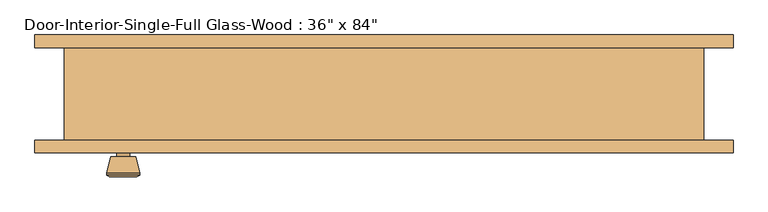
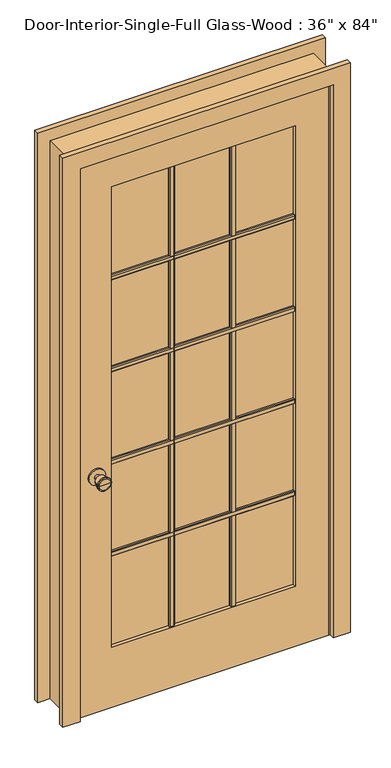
"""IFC4 building model written with IfcOpenShell, lengths in millimetres: door geometry."""

from ifc_helpers import new_model, si_unit, point, frame, frame_2d, origin, place, context, project, spatial, polyline, circle_curve, trimmed, segment, composite_curve, outline, extrude, faceted_brep, source, transform, mapped, element, save
from ifc_brep_helpers import plane_surface, cylinder_surface, revolved_surface, advanced_brep


def door_79dd3e86(model_context):
    return source(origin(), model_context, "Body", "SolidModel", [
        extrude(outline(polyline([(-52.705, 1667.51), (-52.705, 1648.46), (-59.055, 1648.46), (-62.23, 1651.635), (-62.23, 1664.335), (-59.055, 1667.51), (-52.705, 1667.51)])), frame((-336.55, 0.0, 0.0), z_axis=(1.0, 0.0, 0.0), x_axis=(0.0, 1.0, 0.0)), (0.0, 0.0, 1.0), 673.1),
        extrude(outline(polyline([(-52.705, 1310.9575), (-52.705, 1291.9075), (-59.055, 1291.9075), (-62.23, 1295.0825), (-62.23, 1307.7825), (-59.055, 1310.9575), (-52.705, 1310.9575)])), frame((-336.55, 0.0, 0.0), z_axis=(1.0, 0.0, 0.0), x_axis=(0.0, 1.0, 0.0)), (0.0, 0.0, 1.0), 673.1),
        extrude(outline(polyline([(-52.705, 954.405), (-52.705, 935.355), (-59.055, 935.355), (-62.23, 938.53), (-62.23, 951.23), (-59.055, 954.405), (-52.705, 954.405)])), frame((-336.55, 0.0, 0.0), z_axis=(1.0, 0.0, 0.0), x_axis=(0.0, 1.0, 0.0)), (0.0, 0.0, 1.0), 673.1),
        extrude(outline(polyline([(-52.705, 597.8525), (-52.705, 578.8025), (-59.055, 578.8025), (-62.23, 581.9775), (-62.23, 594.6775), (-59.055, 597.8525), (-52.705, 597.8525)])), frame((-336.55, 0.0, 0.0), z_axis=(1.0, 0.0, 0.0), x_axis=(0.0, 1.0, 0.0)), (0.0, 0.0, 1.0), 673.1),
        extrude(outline(polyline([(102.6583333, -52.705), (121.7083333, -52.705), (121.7083333, -59.055), (118.5333333, -62.23), (105.8333333, -62.23), (102.6583333, -59.055), (102.6583333, -52.705)])), frame((0.0, 0.0, 231.775), z_axis=(0.0, 0.0, 1.0), x_axis=(1.0, 0.0, 0.0)), (0.0, 0.0, 1.0), 1782.7625),
        extrude(outline(polyline([(-121.7083333, -52.705), (-102.6583333, -52.705), (-102.6583333, -59.055), (-105.8333333, -62.23), (-118.5333333, -62.23), (-121.7083333, -59.055), (-121.7083333, -52.705)])), frame((0.0, 0.0, 231.775), z_axis=(0.0, 0.0, 1.0), x_axis=(1.0, 0.0, 0.0)), (0.0, 0.0, 1.0), 1782.7625),
        extrude(outline(polyline([(-45.72, 1667.51), (-39.37, 1667.51), (-36.195, 1664.335), (-36.195, 1651.635), (-39.37, 1648.46), (-45.72, 1648.46), (-45.72, 1667.51)])), frame((-336.55, 0.0, 0.0), z_axis=(1.0, 0.0, 0.0), x_axis=(0.0, 1.0, 0.0)), (0.0, 0.0, 1.0), 673.1),
        extrude(outline(polyline([(-45.72, 1310.9575), (-39.37, 1310.9575), (-36.195, 1307.7825), (-36.195, 1295.0825), (-39.37, 1291.9075), (-45.72, 1291.9075), (-45.72, 1310.9575)])), frame((-336.55, 0.0, 0.0), z_axis=(1.0, 0.0, 0.0), x_axis=(0.0, 1.0, 0.0)), (0.0, 0.0, 1.0), 673.1),
        extrude(outline(polyline([(-45.72, 954.405), (-39.37, 954.405), (-36.195, 951.23), (-36.195, 938.53), (-39.37, 935.355), (-45.72, 935.355), (-45.72, 954.405)])), frame((-336.55, 0.0, 0.0), z_axis=(1.0, 0.0, 0.0), x_axis=(0.0, 1.0, 0.0)), (0.0, 0.0, 1.0), 673.1),
        extrude(outline(polyline([(-45.72, 597.8525), (-39.37, 597.8525), (-36.195, 594.6775), (-36.195, 581.9775), (-39.37, 578.8025), (-45.72, 578.8025), (-45.72, 597.8525)])), frame((-336.55, 0.0, 0.0), z_axis=(1.0, 0.0, 0.0), x_axis=(0.0, 1.0, 0.0)), (0.0, 0.0, 1.0), 673.1),
        extrude(outline(polyline([(102.6583333, -45.72), (102.6583333, -39.37), (105.8333333, -36.195), (118.5333333, -36.195), (121.7083333, -39.37), (121.7083333, -45.72), (102.6583333, -45.72)])), frame((0.0, 0.0, 231.775), z_axis=(0.0, 0.0, 1.0), x_axis=(1.0, 0.0, 0.0)), (0.0, 0.0, 1.0), 1782.7625),
        extrude(outline(polyline([(-121.7083333, -45.72), (-121.7083333, -39.37), (-118.5333333, -36.195), (-105.8333333, -36.195), (-102.6583333, -39.37), (-102.6583333, -45.72), (-121.7083333, -45.72)])), frame((0.0, 0.0, 231.775), z_axis=(0.0, 0.0, 1.0), x_axis=(1.0, 0.0, 0.0)), (0.0, 0.0, 1.0), 1782.7625),
        advanced_brep(
        [(-393.7, -25.75, 914.4), (-403.7, -25.75, 914.4), (-383.7, -25.75, 914.4), (-373.2241324, 23.25, 914.4), (-414.1758676, 23.25, 914.4), (-393.7, 23.25, 914.4), (-368.7, 21.4221319, 914.4), (-418.7, 21.4221319, 914.4), (-368.7, 17.9584537, 914.4), (-418.7, 17.9584537, 914.4), (-375.063764, -6.75, 914.4), (-412.336236, -6.75, 914.4), (-383.7, -6.75, 914.4), (-403.7, -6.75, 914.4)],
        [
            (0, 1),
            (1, 2, circle_curve(frame((-393.7, -25.75, 914.4), z_axis=(0.0, -1.0, 0.0), x_axis=(-1.0, 0.0, 0.0)), 10.0)),
            (2, 0),
            (2, 1, circle_curve(frame((-393.7, -25.75, 914.4), z_axis=(0.0, -1.0, 0.0), x_axis=(-1.0, 0.0, 0.0)), 10.0)),
            (3, 4, circle_curve(frame((-393.7, 23.25, 914.4), z_axis=(0.0, 1.0, 0.0), x_axis=(-1.0, 0.0, 0.0)), 20.4758676)),
            (4, 5),
            (5, 3),
            (4, 3, circle_curve(frame((-393.7, 23.25, 914.4), z_axis=(0.0, 1.0, 0.0), x_axis=(-1.0, 0.0, 0.0)), 20.4758676)),
            (6, 7, circle_curve(frame((-393.7, 21.4221319, 914.4), z_axis=(0.0, 1.0, 0.0), x_axis=(-1.0, 0.0, 0.0)), 25.0)),
            (7, 4),
            (3, 6),
            (7, 6, circle_curve(frame((-393.7, 21.4221319, 914.4), z_axis=(0.0, 1.0, 0.0), x_axis=(-1.0, 0.0, 0.0)), 25.0)),
            (8, 9, circle_curve(frame((-393.7, 17.9584537, 914.4), z_axis=(0.0, 1.0, 0.0), x_axis=(-1.0, 0.0, 0.0)), 25.0)),
            (9, 7),
            (6, 8),
            (9, 8, circle_curve(frame((-393.7, 17.9584537, 914.4), z_axis=(0.0, 1.0, 0.0), x_axis=(-1.0, 0.0, 0.0)), 25.0)),
            (10, 11, circle_curve(frame((-393.7, -6.75, 914.4), z_axis=(0.0, 1.0, 0.0), x_axis=(-1.0, 0.0, 0.0)), 18.636236)),
            (11, 9),
            (8, 10),
            (11, 10, circle_curve(frame((-393.7, -6.75, 914.4), z_axis=(0.0, 1.0, 0.0), x_axis=(-1.0, 0.0, 0.0)), 18.636236)),
            (12, 13, circle_curve(frame((-393.7, -6.75, 914.4), z_axis=(0.0, 1.0, 0.0), x_axis=(-1.0, 0.0, 0.0)), 10.0)),
            (13, 11),
            (10, 12),
            (13, 12, circle_curve(frame((-393.7, -6.75, 914.4), z_axis=(0.0, 1.0, 0.0), x_axis=(-1.0, 0.0, 0.0)), 10.0)),
            (1, 13),
            (12, 2),
        ],
        [
            plane_surface(frame((-393.7, -25.75, 914.4), z_axis=(0.0, -1.0, 0.0), x_axis=(-1.0, 0.0, 0.0))),
            plane_surface(frame((-393.7, 23.25, 914.4), z_axis=(0.0, 1.0, 0.0), x_axis=(-1.0, 0.0, 0.0))),
            revolved_surface(polyline([(-414.1758676, 23.25, 914.4), (-418.7, 21.4221319, 914.4)]), (-393.7, -25.75, 914.4), (0.0, -1.0, 0.0)),
            cylinder_surface(frame((-393.7, -25.75, 914.4), z_axis=(0.0, -1.0, 0.0), x_axis=(-1.0, 0.0, 0.0)), 25.0),
            revolved_surface(polyline([(-418.7, 17.9584537, 914.4), (-412.336236, -6.75, 914.4)]), (-393.7, -25.75, 914.4), (0.0, -1.0, 0.0)),
            plane_surface(frame((-393.7, -6.75, 914.4), z_axis=(0.0, -1.0, 0.0), x_axis=(-1.0, 0.0, 0.0))),
            cylinder_surface(frame((-393.7, -25.75, 914.4), z_axis=(0.0, -1.0, 0.0), x_axis=(-1.0, 0.0, 0.0)), 10.0),
        ],
        [
            (0, [[1, 2, 3]]),
            (0, [[-3, 4, -1]]),
            (1, [[5, 6, 7]]),
            (1, [[8, -7, -6]]),
            (2, [[9, 10, -5, 11]]),
            (2, [[12, -11, -8, -10]]),
            (3, [[13, 14, -9, 15]]),
            (3, [[16, -15, -12, -14]]),
            (4, [[17, 18, -13, 19]]),
            (4, [[20, -19, -16, -18]]),
            (5, [[21, 22, -17, 23]]),
            (5, [[24, -23, -20, -22]]),
            (6, [[-2, 25, -21, 26]]),
            (6, [[-4, -26, -24, -25]]),
        ],
    ),
        extrude(outline(composite_curve([segment(trimmed(circle_curve(frame_2d((914.4, -393.7)), 30.0), [point((914.4, -423.7))], [point((914.4, -363.7))], False, "CARTESIAN"), True, "CONTINUOUS"), segment(trimmed(circle_curve(frame_2d((914.4, -393.7)), 30.0), [point((914.4, -363.7))], [point((914.4, -423.7))], False, "CARTESIAN"), True, "CONTINUOUS")], self_intersect=False)), frame((0.0, -31.75, 0.0), z_axis=(0.0, 1.0, 0.0), x_axis=(0.0, 0.0, 1.0)), (0.0, 0.0, 1.0), 6.0),
        advanced_brep(
        [(-393.7, -72.675, 914.4), (-383.7, -72.675, 914.4), (-403.7, -72.675, 914.4), (-373.2241324, -121.675, 914.4), (-393.7, -121.675, 914.4), (-414.1758676, -121.675, 914.4), (-368.7, -119.8471319, 914.4), (-418.7, -119.8471319, 914.4), (-368.7, -116.3834537, 914.4), (-418.7, -116.3834537, 914.4), (-375.063764, -91.675, 914.4), (-412.336236, -91.675, 914.4), (-383.7, -91.675, 914.4), (-403.7, -91.675, 914.4)],
        [
            (0, 1),
            (1, 2, circle_curve(frame((-393.7, -72.675, 914.4), z_axis=(0.0, 1.0, 0.0), x_axis=(-1.0, 0.0, 0.0)), 10.0)),
            (2, 0),
            (2, 1, circle_curve(frame((-393.7, -72.675, 914.4), z_axis=(0.0, 1.0, 0.0), x_axis=(-1.0, 0.0, 0.0)), 10.0)),
            (3, 4),
            (4, 5),
            (5, 3, circle_curve(frame((-393.7, -121.675, 914.4), z_axis=(0.0, -1.0, 0.0), x_axis=(-1.0, 0.0, 0.0)), 20.4758676)),
            (3, 5, circle_curve(frame((-393.7, -121.675, 914.4), z_axis=(0.0, -1.0, 0.0), x_axis=(-1.0, 0.0, 0.0)), 20.4758676)),
            (6, 3),
            (5, 7),
            (7, 6, circle_curve(frame((-393.7, -119.8471319, 914.4), z_axis=(0.0, -1.0, 0.0), x_axis=(-1.0, 0.0, 0.0)), 25.0)),
            (6, 7, circle_curve(frame((-393.7, -119.8471319, 914.4), z_axis=(0.0, -1.0, 0.0), x_axis=(-1.0, 0.0, 0.0)), 25.0)),
            (8, 6),
            (7, 9),
            (9, 8, circle_curve(frame((-393.7, -116.3834537, 914.4), z_axis=(0.0, -1.0, 0.0), x_axis=(-1.0, 0.0, 0.0)), 25.0)),
            (8, 9, circle_curve(frame((-393.7, -116.3834537, 914.4), z_axis=(0.0, -1.0, 0.0), x_axis=(-1.0, 0.0, 0.0)), 25.0)),
            (10, 8),
            (9, 11),
            (11, 10, circle_curve(frame((-393.7, -91.675, 914.4), z_axis=(0.0, -1.0, 0.0), x_axis=(-1.0, 0.0, 0.0)), 18.636236)),
            (10, 11, circle_curve(frame((-393.7, -91.675, 914.4), z_axis=(0.0, -1.0, 0.0), x_axis=(-1.0, 0.0, 0.0)), 18.636236)),
            (12, 10),
            (11, 13),
            (13, 12, circle_curve(frame((-393.7, -91.675, 914.4), z_axis=(0.0, -1.0, 0.0), x_axis=(-1.0, 0.0, 0.0)), 10.0)),
            (12, 13, circle_curve(frame((-393.7, -91.675, 914.4), z_axis=(0.0, -1.0, 0.0), x_axis=(-1.0, 0.0, 0.0)), 10.0)),
            (1, 12),
            (13, 2),
        ],
        [
            plane_surface(frame((-393.7, -72.675, 914.4), z_axis=(0.0, 1.0, 0.0), x_axis=(-1.0, 0.0, 0.0))),
            plane_surface(frame((-393.7, -121.675, 914.4), z_axis=(0.0, -1.0, 0.0), x_axis=(-1.0, 0.0, 0.0))),
            revolved_surface(polyline([(-414.1758676, -121.675, 914.4), (-418.7, -119.8471319, 914.4)]), (-393.7, -72.675, 914.4), (0.0, 1.0, 0.0)),
            cylinder_surface(frame((-393.7, -72.675, 914.4), z_axis=(0.0, 1.0, 0.0), x_axis=(-1.0, 0.0, 0.0)), 25.0),
            revolved_surface(polyline([(-418.7, -116.3834537, 914.4), (-412.336236, -91.675, 914.4)]), (-393.7, -72.675, 914.4), (0.0, 1.0, 0.0)),
            plane_surface(frame((-393.7, -91.675, 914.4), z_axis=(0.0, 1.0, 0.0), x_axis=(-1.0, 0.0, 0.0))),
            cylinder_surface(frame((-393.7, -72.675, 914.4), z_axis=(0.0, 1.0, 0.0), x_axis=(-1.0, 0.0, 0.0)), 10.0),
        ],
        [
            (0, [[1, 2, 3]]),
            (0, [[-3, 4, -1]]),
            (1, [[5, 6, 7]]),
            (1, [[-6, -5, 8]]),
            (2, [[9, -7, 10, 11]]),
            (2, [[-10, -8, -9, 12]]),
            (3, [[13, -11, 14, 15]]),
            (3, [[-14, -12, -13, 16]]),
            (4, [[17, -15, 18, 19]]),
            (4, [[-18, -16, -17, 20]]),
            (5, [[21, -19, 22, 23]]),
            (5, [[-22, -20, -21, 24]]),
            (6, [[25, -23, 26, -2]]),
            (6, [[-26, -24, -25, -4]]),
        ],
    ),
        extrude(outline(composite_curve([segment(trimmed(circle_curve(frame_2d((914.4, -393.7)), 30.0), [point((914.4, -423.7))], [point((914.4, -363.7))], False, "CARTESIAN"), True, "CONTINUOUS"), segment(trimmed(circle_curve(frame_2d((914.4, -393.7)), 30.0), [point((914.4, -363.7))], [point((914.4, -423.7))], False, "CARTESIAN"), True, "CONTINUOUS")], self_intersect=False)), frame((0.0, -72.675, 0.0), z_axis=(0.0, 1.0, 0.0), x_axis=(0.0, 0.0, 1.0)), (0.0, 0.0, 1.0), 6.0),
        extrude(outline(polyline([(2133.6, -457.2), (0.0, -457.2), (0.0, 457.2), (2133.6, 457.2), (2133.6, -457.2)]), holes=[polyline([(2014.5375, -336.55), (2014.5375, 336.55), (231.775, 336.55), (231.775, -336.55), (2014.5375, -336.55)])]), frame((0.0, -66.675, 0.0), z_axis=(0.0, 1.0, 0.0), x_axis=(0.0, 0.0, 1.0)), (0.0, 0.0, 1.0), 34.925),
        faceted_brep([(482.6, -66.675, 0.0), (457.2, -66.675, 0.0), (457.2, -31.75, 0.0), (444.5, -31.75, 0.0), (444.5, 3.175, 0.0), (457.2, 3.175, 0.0), (457.2, 73.025, 0.0), (482.6, 73.025, 0.0), (482.6, 73.025, 2159.0), (482.6, -66.675, 2159.0), (457.2, 73.025, 2133.6), (-457.2, 73.025, 2133.6), (-457.2, 73.025, 0.0), (-482.6, 73.025, 0.0), (-482.6, 73.025, 2159.0), (457.2, 3.175, 2133.6), (444.5, 3.175, 2120.9), (-444.5, 3.175, 2120.9), (-444.5, 3.175, 0.0), (-457.2, 3.175, 0.0), (-457.2, 3.175, 2133.6), (444.5, -31.75, 2120.9), (457.2, -31.75, 2133.6), (-457.2, -31.75, 2133.6), (-457.2, -31.75, 0.0), (-444.5, -31.75, 0.0), (-444.5, -31.75, 2120.9), (457.2, -66.675, 2133.6), (-482.6, -66.675, 2159.0), (-482.6, -66.675, 0.0), (-457.2, -66.675, 0.0), (-457.2, -66.675, 2133.6)], [[[0, 1, 2, 3, 4, 5, 6, 7]], [[7, 8, 9, 0]], [[6, 10, 11, 12, 13, 14, 8, 7]], [[5, 15, 10, 6]], [[4, 16, 17, 18, 19, 20, 15, 5]], [[3, 21, 16, 4]], [[2, 22, 23, 24, 25, 26, 21, 3]], [[1, 27, 22, 2]], [[0, 9, 28, 29, 30, 31, 27, 1]], [[8, 14, 28, 9]], [[15, 20, 11, 10]], [[21, 26, 17, 16]], [[27, 31, 23, 22]], [[29, 13, 12, 19, 18, 25, 24, 30]], [[14, 13, 29, 28]], [[20, 19, 12, 11]], [[26, 25, 18, 17]], [[31, 30, 24, 23]]]),
        extrude(outline(polyline([(336.55, -45.72), (336.55, -52.705), (-336.55, -52.705), (-336.55, -45.72), (336.55, -45.72)])), frame((0.0, 0.0, 231.775), z_axis=(0.0, 0.0, 1.0), x_axis=(1.0, 0.0, 0.0)), (0.0, 0.0, 1.0), 1782.7625),
        extrude(outline(polyline([(0.0, 527.05), (2203.45, 527.05), (2203.45, -527.05), (0.0, -527.05), (0.0, -463.55), (2139.95, -463.55), (2139.95, 463.55), (0.0, 463.55), (0.0, 527.05)])), frame((0.0, 73.025, 0.0), z_axis=(0.0, 1.0, 0.0), x_axis=(0.0, 0.0, 1.0)), (0.0, 0.0, 1.0), 19.05),
        extrude(outline(polyline([(0.0, 527.05), (2203.45, 527.05), (2203.45, -527.05), (0.0, -527.05), (0.0, -463.55), (2139.95, -463.55), (2139.95, 463.55), (0.0, 463.55), (0.0, 527.05)])), frame((0.0, -85.725, 0.0), z_axis=(0.0, 1.0, 0.0), x_axis=(0.0, 0.0, 1.0)), (0.0, 0.0, 1.0), 19.05),
    ])


if __name__ == "__main__":
    model = new_model("IFC4")
    model_context = context("Model", 3, world=origin())
    ifc_project = project(units=[si_unit("LENGTHUNIT", "METRE", prefix="MILLI")], contexts=[model_context])
    site = spatial("IfcSite", under=ifc_project)
    building = spatial("IfcBuilding", under=site)
    placement = place(None, origin())
    door_shape = door_79dd3e86(model_context)
    element("IfcDoor", 1, ObjectType="Door-Interior-Single-Full Glass-Wood : 36\" x 84\"", at=placement, inside=building, context=model_context, shape_type="MappedRepresentation", body=[
        mapped(door_shape, transform((0.0, 0.0, 0.0), x_axis=(1.0, 0.0, 0.0), y_axis=(0.0, 1.0, 0.0), z_axis=(0.0, 0.0, 1.0))),
    ])
    save(model, "model.ifc")
